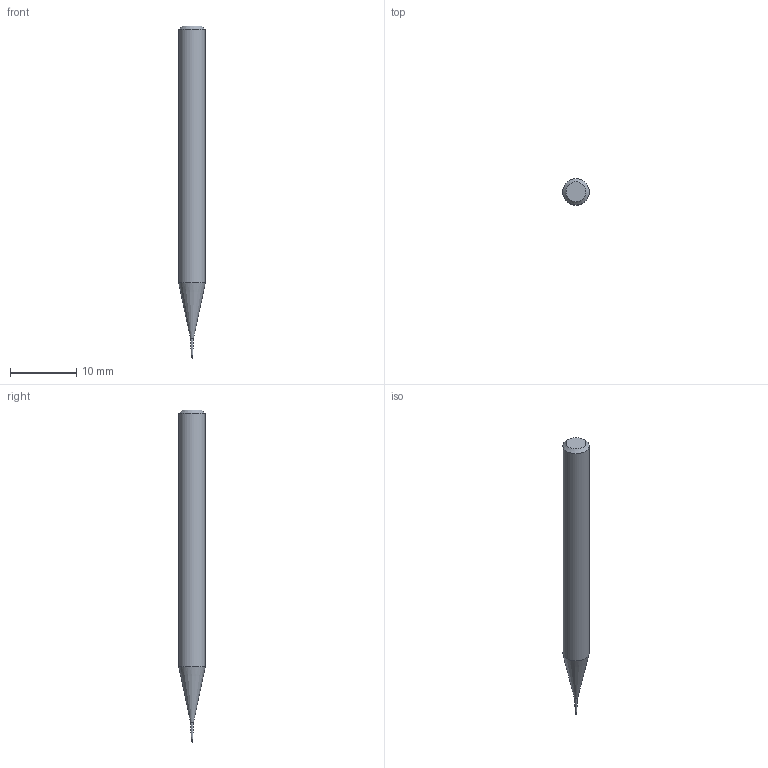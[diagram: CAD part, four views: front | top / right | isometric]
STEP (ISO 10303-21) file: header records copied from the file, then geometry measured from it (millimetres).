
FILE_DESCRIPTION((''),'2;1');
FILE_NAME('C:\Users\nsx150\AppData\Local\Temp\Mastercam 2021\SNAKH10GOD\TEMP.step','2021-10-21T13:30:43',(''),(''),'STEP Write','Mastercam 2021 ... CNC Software, Inc.','');
FILE_SCHEMA(('AUTOMOTIVE_DESIGN'));
Length unit declared in the file: millimetre
Products named in the file (1): None
Bounding box: 4 x 4 x 50 mm (x, y, z)
Volume: 524.4 mm3; surface area: 557.5 mm2
Topology: 2 solids, 2 shells, 10 faces, 16 edges, 9 vertices
Faces by surface type: plane 3, cylinder 3, cone 3, sphere 1
Full cylindrical faces by diameter (mm): 0.195 x1, 0.2 x1, 4 x1
Entity records: 232 total; most frequent: DIRECTION 40, CARTESIAN_POINT 28, AXIS2_PLACEMENT_3D 20, ORIENTED_EDGE 16, EDGE_LOOP 16, STYLED_ITEM 13, ADVANCED_FACE 10, FACE_BOUND 9
